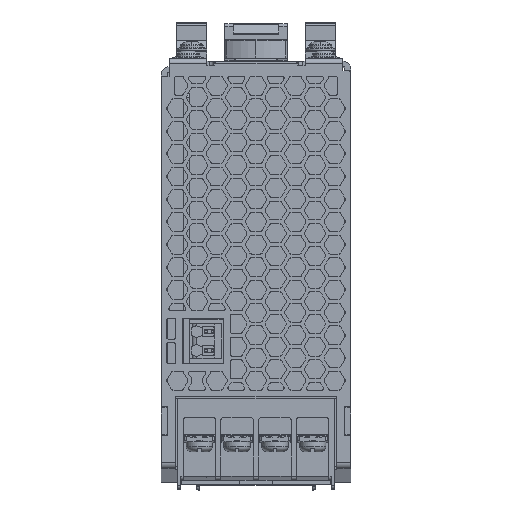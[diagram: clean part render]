
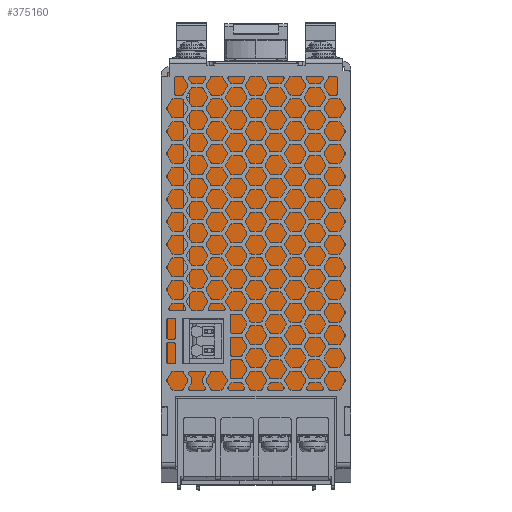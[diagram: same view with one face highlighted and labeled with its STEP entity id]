
A CAD part, top view. The second image highlights one B-rep face of the part: STEP entity #375160.
In plain terms, the highlighted planar face has unit normal (0, 0, 1).
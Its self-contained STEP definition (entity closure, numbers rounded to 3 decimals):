
#5530=CARTESIAN_POINT('',(167.784,-94.792,
74.75));
#5540=VERTEX_POINT('',#5530);
#5570=CARTESIAN_POINT('',(167.784,-113.667,
74.75));
#5580=DIRECTION('',(0.,1.,0.));
#5590=VECTOR('',#5580,1.);
#5600=LINE('',#5570,#5590);
#5610=CARTESIAN_POINT('',(167.784,-8.592,
74.75));
#5620=VERTEX_POINT('',#5610);
#5630=EDGE_CURVE('',#5540,#5620,#5600,.T.);
#22210=CARTESIAN_POINT('',(120.784,-94.792,
74.75));
#22220=VERTEX_POINT('',#22210);
#22250=CARTESIAN_POINT('',(120.784,-94.792,
74.75));
#22260=DIRECTION('',(1.,0.,0.));
#22270=VECTOR('',#22260,1.);
#22280=LINE('',#22250,#22270);
#22290=CARTESIAN_POINT('',(121.034,-94.792,
74.75));
#22300=VERTEX_POINT('',#22290);
#22310=EDGE_CURVE('',#22220,#22300,#22280,.T.);
#22810=CARTESIAN_POINT('',(167.534,-94.792,
74.75));
#22820=VERTEX_POINT('',#22810);
#22850=EDGE_CURVE('',#22820,#5540,#22280,.T.);
#26380=CARTESIAN_POINT('',(121.034,-93.192,
74.75));
#26390=VERTEX_POINT('',#26380);
#26490=CARTESIAN_POINT('',(121.034,-113.667,
74.75));
#26500=DIRECTION('',(0.,-1.,0.));
#26510=VECTOR('',#26500,1.);
#26520=LINE('',#26490,#26510);
#26530=EDGE_CURVE('',#26390,#22300,#26520,.T.);
#26690=CARTESIAN_POINT('',(167.534,-93.192,
74.75));
#26700=VERTEX_POINT('',#26690);
#26820=CARTESIAN_POINT('',(120.784,-93.192,
74.75));
#26830=DIRECTION('',(1.,0.,0.));
#26840=VECTOR('',#26830,1.);
#26850=LINE('',#26820,#26840);
#26860=EDGE_CURVE('',#26390,#26700,#26850,.T.);
#27030=CARTESIAN_POINT('',(167.534,-113.667,
74.75));
#27040=DIRECTION('',(0.,1.,0.));
#27050=VECTOR('',#27040,1.);
#27060=LINE('',#27030,#27050);
#27070=EDGE_CURVE('',#22820,#26700,#27060,.T.);
#373230=CARTESIAN_POINT('',(120.784,-8.592,
74.75));
#373240=DIRECTION('',(1.,0.,0.));
#373250=VECTOR('',#373240,1.);
#373260=LINE('',#373230,#373250);
#373270=CARTESIAN_POINT('',(166.279,-8.592,
74.75));
#373280=VERTEX_POINT('',#373270);
#373290=EDGE_CURVE('',#373280,#5620,#373260,.T.);
#374300=CARTESIAN_POINT('',(120.784,-112.792,
74.75));
#374310=DIRECTION('',(0.,-0.,1.));
#374320=DIRECTION('',(0.,1.,0.));
#374330=AXIS2_PLACEMENT_3D('',#374300,#374310,#374320);
#374340=PLANE('',#374330);
#374350=CARTESIAN_POINT('',(136.134,-113.667,
74.75));
#374360=DIRECTION('',(0.,-1.,0.));
#374370=VECTOR('',#374360,1.);
#374380=LINE('',#374350,#374370);
#374390=CARTESIAN_POINT('',(136.134,-73.913,
74.75));
#374400=VERTEX_POINT('',#374390);
#374410=CARTESIAN_POINT('',(136.134,-86.913,
74.75));
#374420=VERTEX_POINT('',#374410);
#374430=EDGE_CURVE('',#374400,#374420,#374380,.T.);
#374440=ORIENTED_EDGE('',*,*,#374430,.T.);
#374450=CARTESIAN_POINT('',(120.784,-73.913,
74.75));
#374460=DIRECTION('',(1.,0.,0.));
#374470=VECTOR('',#374460,1.);
#374480=LINE('',#374450,#374470);
#374490=CARTESIAN_POINT('',(126.634,-73.913,
74.75));
#374500=VERTEX_POINT('',#374490);
#374510=EDGE_CURVE('',#374500,#374400,#374480,.T.);
#374520=ORIENTED_EDGE('',*,*,#374510,.T.);
#374530=CARTESIAN_POINT('',(126.634,-113.667,
74.75));
#374540=DIRECTION('',(0.,1.,0.));
#374550=VECTOR('',#374540,1.);
#374560=LINE('',#374530,#374550);
#374570=CARTESIAN_POINT('',(126.634,-14.093,
74.75));
#374580=VERTEX_POINT('',#374570);
#374590=EDGE_CURVE('',#374500,#374580,#374560,.T.);
#374600=ORIENTED_EDGE('',*,*,#374590,.F.);
#374610=CARTESIAN_POINT('',(120.784,-14.093,
74.75));
#374620=DIRECTION('',(-1.,0.,0.));
#374630=VECTOR('',#374620,1.);
#374640=LINE('',#374610,#374630);
#374650=CARTESIAN_POINT('',(125.034,-14.093,
74.75));
#374660=VERTEX_POINT('',#374650);
#374670=EDGE_CURVE('',#374580,#374660,#374640,.T.);
#374680=ORIENTED_EDGE('',*,*,#374670,.F.);
#374690=CARTESIAN_POINT('',(125.034,-113.667,
74.75));
#374700=DIRECTION('',(0.,1.,0.));
#374710=VECTOR('',#374700,1.);
#374720=LINE('',#374690,#374710);
#374730=CARTESIAN_POINT('',(125.034,-86.913,
74.75));
#374740=VERTEX_POINT('',#374730);
#374750=EDGE_CURVE('',#374740,#374660,#374720,.T.);
#374760=ORIENTED_EDGE('',*,*,#374750,.T.);
#374770=CARTESIAN_POINT('',(120.784,-86.913,
74.75));
#374780=DIRECTION('',(1.,0.,0.));
#374790=VECTOR('',#374780,1.);
#374800=LINE('',#374770,#374790);
#374810=CARTESIAN_POINT('',(126.634,-86.913,
74.75));
#374820=VERTEX_POINT('',#374810);
#374830=EDGE_CURVE('',#374740,#374820,#374800,.T.);
#374840=ORIENTED_EDGE('',*,*,#374830,.F.);
#374850=CARTESIAN_POINT('',(120.784,-86.913,
74.75));
#374860=DIRECTION('',(-1.,0.,0.));
#374870=VECTOR('',#374860,1.);
#374880=LINE('',#374850,#374870);
#374890=EDGE_CURVE('',#374420,#374820,#374880,.T.);
#374900=ORIENTED_EDGE('',*,*,#374890,.T.);
#374910=EDGE_LOOP('',(#374900,#374840,#374760,#374680,#374600,#374520,
#374440));
#374920=FACE_BOUND('',#374910,.T.);
#374930=CARTESIAN_POINT('',(120.784,-8.592,
74.75));
#374940=DIRECTION('',(1.,0.,0.));
#374950=VECTOR('',#374940,1.);
#374960=LINE('',#374930,#374950);
#374970=CARTESIAN_POINT('',(120.784,-8.592,
74.75));
#374980=VERTEX_POINT('',#374970);
#374990=EDGE_CURVE('',#374980,#373280,#374960,.T.);
#375000=ORIENTED_EDGE('',*,*,#374990,.F.);
#375010=ORIENTED_EDGE('',*,*,#373290,.F.);
#375020=ORIENTED_EDGE('',*,*,#5630,.T.);
#375030=ORIENTED_EDGE('',*,*,#22850,.T.);
#375040=ORIENTED_EDGE('',*,*,#27070,.F.);
#375050=ORIENTED_EDGE('',*,*,#26860,.T.);
#375060=ORIENTED_EDGE('',*,*,#26530,.F.);
#375070=ORIENTED_EDGE('',*,*,#22310,.T.);
#375080=CARTESIAN_POINT('',(120.784,-113.667,
74.75));
#375090=DIRECTION('',(0.,-1.,0.));
#375100=VECTOR('',#375090,1.);
#375110=LINE('',#375080,#375100);
#375120=EDGE_CURVE('',#374980,#22220,#375110,.T.);
#375130=ORIENTED_EDGE('',*,*,#375120,.T.);
#375140=EDGE_LOOP('',(#375130,#375070,#375060,#375050,#375040,#375030,
#375020,#375010,#375000));
#375150=FACE_OUTER_BOUND('',#375140,.T.);
#375160=ADVANCED_FACE('',(#374920,#375150),#374340,.T.);
